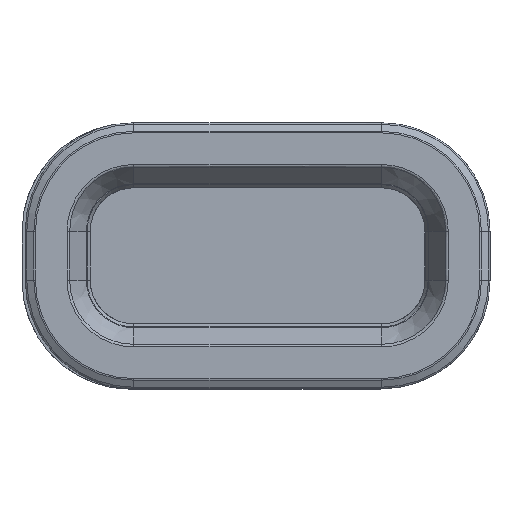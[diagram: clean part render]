
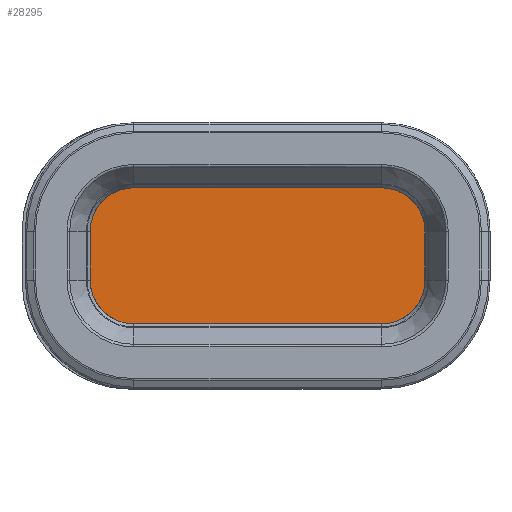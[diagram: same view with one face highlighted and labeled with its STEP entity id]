
A CAD part, top view. The second image highlights one B-rep face of the part: STEP entity #28295.
In plain terms, the highlighted planar face has unit normal (0, 0, 1) as drawn and (0, 0, -1) by its records, which use the part's own axes.
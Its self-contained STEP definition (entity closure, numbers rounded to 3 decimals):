
#28000=DIRECTION('',(1.,0.,0.));
#28001=VECTOR('',#28000,162.);
#28002=CARTESIAN_POINT('',(37.,0.,0.));
#28003=LINE('',#28002,#28001);
#28004=CARTESIAN_POINT('',(199.,37.,0.));
#28005=DIRECTION('',(0.,0.,1.));
#28006=DIRECTION('',(0.,-1.,0.));
#28007=AXIS2_PLACEMENT_3D('',#28004,#28005,#28006);
#28009=DIRECTION('',(0.,1.,0.));
#28010=VECTOR('',#28009,32.);
#28011=CARTESIAN_POINT('',(236.,37.,0.));
#28012=LINE('',#28011,#28010);
#28013=CARTESIAN_POINT('',(199.,69.,0.));
#28014=DIRECTION('',(0.,0.,1.));
#28015=DIRECTION('',(1.,0.,0.));
#28016=AXIS2_PLACEMENT_3D('',#28013,#28014,#28015);
#28018=DIRECTION('',(-1.,0.,0.));
#28019=VECTOR('',#28018,162.);
#28020=CARTESIAN_POINT('',(199.,106.,0.));
#28021=LINE('',#28020,#28019);
#28022=CARTESIAN_POINT('',(37.,69.,0.));
#28023=DIRECTION('',(0.,0.,1.));
#28024=DIRECTION('',(0.,1.,0.));
#28025=AXIS2_PLACEMENT_3D('',#28022,#28023,#28024);
#28027=DIRECTION('',(0.,-1.,0.));
#28028=VECTOR('',#28027,32.);
#28029=CARTESIAN_POINT('',(0.,69.,0.));
#28030=LINE('',#28029,#28028);
#28031=CARTESIAN_POINT('',(37.,37.,0.));
#28032=DIRECTION('',(0.,0.,1.));
#28033=DIRECTION('',(-1.,0.,0.));
#28034=AXIS2_PLACEMENT_3D('',#28031,#28032,#28033);
#28208=CARTESIAN_POINT('',(37.,0.,0.));
#28209=CARTESIAN_POINT('',(199.,0.,0.));
#28210=VERTEX_POINT('',#28208);
#28211=VERTEX_POINT('',#28209);
#28212=CARTESIAN_POINT('',(236.,37.,0.));
#28213=VERTEX_POINT('',#28212);
#28214=CARTESIAN_POINT('',(236.,69.,0.));
#28215=VERTEX_POINT('',#28214);
#28216=CARTESIAN_POINT('',(199.,106.,0.));
#28217=VERTEX_POINT('',#28216);
#28218=CARTESIAN_POINT('',(37.,106.,0.));
#28219=VERTEX_POINT('',#28218);
#28220=CARTESIAN_POINT('',(0.,69.,0.));
#28221=VERTEX_POINT('',#28220);
#28222=CARTESIAN_POINT('',(0.,37.,0.));
#28223=VERTEX_POINT('',#28222);
#28272=CARTESIAN_POINT('',(0.,0.,0.));
#28273=DIRECTION('',(0.,0.,1.));
#28274=DIRECTION('',(1.,0.,0.));
#28275=AXIS2_PLACEMENT_3D('',#28272,#28273,#28274);
#28276=PLANE('',#28275);
#28278=ORIENTED_EDGE('',*,*,#28277,.T.);
#28280=ORIENTED_EDGE('',*,*,#28279,.T.);
#28282=ORIENTED_EDGE('',*,*,#28281,.T.);
#28284=ORIENTED_EDGE('',*,*,#28283,.T.);
#28286=ORIENTED_EDGE('',*,*,#28285,.T.);
#28288=ORIENTED_EDGE('',*,*,#28287,.T.);
#28290=ORIENTED_EDGE('',*,*,#28289,.T.);
#28292=ORIENTED_EDGE('',*,*,#28291,.T.);
#28293=EDGE_LOOP('',(#28278,#28280,#28282,#28284,#28286,#28288,#28290,#28292));
#28294=FACE_OUTER_BOUND('',#28293,.F.);
#28295=ADVANCED_FACE('',(#28294),#28276,.F.);
#28008=CIRCLE('',#28007,37.);
#28017=CIRCLE('',#28016,37.);
#28026=CIRCLE('',#28025,37.);
#28035=CIRCLE('',#28034,37.);
#28277=EDGE_CURVE('',#28210,#28211,#28003,.T.);
#28279=EDGE_CURVE('',#28211,#28213,#28008,.T.);
#28281=EDGE_CURVE('',#28213,#28215,#28012,.T.);
#28283=EDGE_CURVE('',#28215,#28217,#28017,.T.);
#28285=EDGE_CURVE('',#28217,#28219,#28021,.T.);
#28287=EDGE_CURVE('',#28219,#28221,#28026,.T.);
#28289=EDGE_CURVE('',#28221,#28223,#28030,.T.);
#28291=EDGE_CURVE('',#28223,#28210,#28035,.T.);
